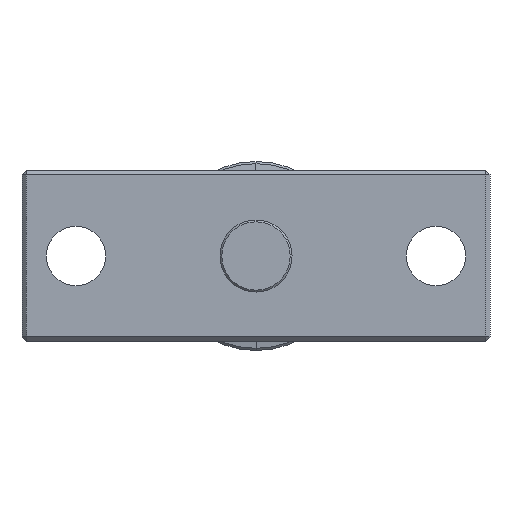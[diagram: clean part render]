
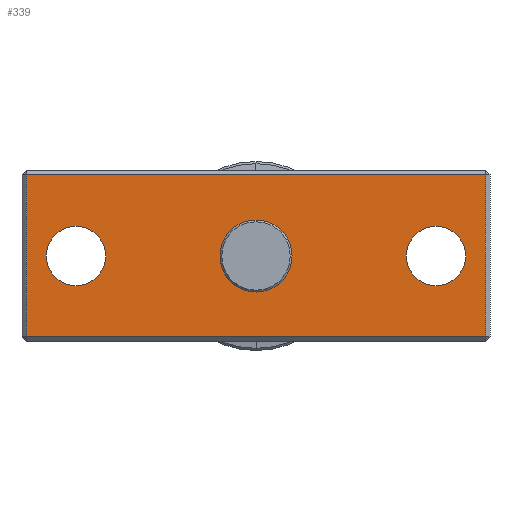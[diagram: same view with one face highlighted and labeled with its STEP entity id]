
A CAD part, left-side view. The second image highlights one B-rep face of the part: STEP entity #339.
In plain terms, the highlighted planar face has unit normal (-1, 0, 0).
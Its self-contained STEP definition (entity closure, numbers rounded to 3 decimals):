
#33 = EDGE_LOOP ( 'NONE', ( #1211, #225 ) ) ;
#53 = VERTEX_POINT ( 'NONE', #2431 ) ;
#110 = ORIENTED_EDGE ( 'NONE', *, *, #2434, .T. ) ;
#153 = VERTEX_POINT ( 'NONE', #536 ) ;
#178 = CARTESIAN_POINT ( 'NONE',  ( -3., -25.5, 9. ) ) ;
#179 = CARTESIAN_POINT ( 'NONE',  ( -3., 25.5, 9. ) ) ;
#206 = CARTESIAN_POINT ( 'NONE',  ( -3., 20., 0. ) ) ;
#221 = VERTEX_POINT ( 'NONE', #1822 ) ;
#225 = ORIENTED_EDGE ( 'NONE', *, *, #1415, .T. ) ;
#263 = EDGE_CURVE ( 'NONE', #1173, #965, #2175, .T. ) ;
#271 = DIRECTION ( 'NONE',  ( 0., 1., 0. ) ) ;
#274 = DIRECTION ( 'NONE',  ( 0., 0., -1. ) ) ;
#283 = EDGE_CURVE ( 'NONE', #53, #2280, #853, .T. ) ;
#307 = EDGE_CURVE ( 'NONE', #965, #2395, #1673, .T. ) ;
#311 = CIRCLE ( 'NONE', #1078, 3.3 ) ;
#339 = ADVANCED_FACE ( 'NONE', ( #1221, #1869, #621, #1424 ), #972, .F. ) ;
#367 = AXIS2_PLACEMENT_3D ( 'NONE', #1893, #816, #481 ) ;
#419 = CARTESIAN_POINT ( 'NONE',  ( -3., 20., 3.3 ) ) ;
#452 = VERTEX_POINT ( 'NONE', #1347 ) ;
#481 = DIRECTION ( 'NONE',  ( 0., 0., -1. ) ) ;
#513 = DIRECTION ( 'NONE',  ( 1., 0., 0. ) ) ;
#523 = CARTESIAN_POINT ( 'NONE',  ( -3., -25.5, 0. ) ) ;
#536 = CARTESIAN_POINT ( 'NONE',  ( -3., -25.5, -9. ) ) ;
#557 = CIRCLE ( 'NONE', #367, 4. ) ;
#571 = CARTESIAN_POINT ( 'NONE',  ( -3., -20., 3.3 ) ) ;
#621 = FACE_BOUND ( 'NONE', #33, .T. ) ;
#639 = DIRECTION ( 'NONE',  ( 1., 0., 0. ) ) ;
#658 = ORIENTED_EDGE ( 'NONE', *, *, #2369, .T. ) ;
#664 = CIRCLE ( 'NONE', #1884, 3.3 ) ;
#725 = EDGE_CURVE ( 'NONE', #221, #824, #664, .T. ) ;
#735 = ORIENTED_EDGE ( 'NONE', *, *, #2083, .T. ) ;
#748 = CARTESIAN_POINT ( 'NONE',  ( -3., 25.5, -9. ) ) ;
#752 = DIRECTION ( 'NONE',  ( 1., 0., 0. ) ) ;
#753 = DIRECTION ( 'NONE',  ( 1., 0., 0. ) ) ;
#807 = DIRECTION ( 'NONE',  ( 0., 0., -1. ) ) ;
#816 = DIRECTION ( 'NONE',  ( 1., 0., 0. ) ) ;
#824 = VERTEX_POINT ( 'NONE', #419 ) ;
#853 = CIRCLE ( 'NONE', #1925, 4. ) ;
#965 = VERTEX_POINT ( 'NONE', #179 ) ;
#972 = PLANE ( 'NONE',  #1593 ) ;
#998 = ORIENTED_EDGE ( 'NONE', *, *, #1140, .T. ) ;
#1061 = CARTESIAN_POINT ( 'NONE',  ( -3., 20., 0. ) ) ;
#1078 = AXIS2_PLACEMENT_3D ( 'NONE', #1728, #639, #2463 ) ;
#1081 = VECTOR ( 'NONE', #2297, 1000. ) ;
#1140 = EDGE_CURVE ( 'NONE', #2280, #53, #557, .T. ) ;
#1173 = VERTEX_POINT ( 'NONE', #178 ) ;
#1189 = CARTESIAN_POINT ( 'NONE',  ( -3., -20., 0. ) ) ;
#1211 = ORIENTED_EDGE ( 'NONE', *, *, #1327, .T. ) ;
#1218 = CARTESIAN_POINT ( 'NONE',  ( -3., 0., 0. ) ) ;
#1221 = FACE_OUTER_BOUND ( 'NONE', #2469, .T. ) ;
#1258 = DIRECTION ( 'NONE',  ( 0., 0., -1. ) ) ;
#1280 = VECTOR ( 'NONE', #2429, 1000. ) ;
#1299 = CARTESIAN_POINT ( 'NONE',  ( -3., 0., -9. ) ) ;
#1327 = EDGE_CURVE ( 'NONE', #452, #2264, #311, .T. ) ;
#1334 = LINE ( 'NONE', #1299, #1081 ) ;
#1347 = CARTESIAN_POINT ( 'NONE',  ( -3., -20., -3.3 ) ) ;
#1354 = DIRECTION ( 'NONE',  ( 1., 0., 0. ) ) ;
#1378 = CARTESIAN_POINT ( 'NONE',  ( -3., 0., 0. ) ) ;
#1386 = AXIS2_PLACEMENT_3D ( 'NONE', #1061, #752, #274 ) ;
#1411 = CIRCLE ( 'NONE', #1897, 3.3 ) ;
#1415 = EDGE_CURVE ( 'NONE', #2264, #452, #1411, .T. ) ;
#1424 = FACE_BOUND ( 'NONE', #2253, .T. ) ;
#1455 = ORIENTED_EDGE ( 'NONE', *, *, #263, .T. ) ;
#1520 = DIRECTION ( 'NONE',  ( 0., 0., -1. ) ) ;
#1543 = CARTESIAN_POINT ( 'NONE',  ( -3., 0., 9. ) ) ;
#1593 = AXIS2_PLACEMENT_3D ( 'NONE', #1378, #753, #2182 ) ;
#1616 = EDGE_LOOP ( 'NONE', ( #998, #1706 ) ) ;
#1630 = CARTESIAN_POINT ( 'NONE',  ( -3., 25.5, 0. ) ) ;
#1673 = LINE ( 'NONE', #1630, #2449 ) ;
#1706 = ORIENTED_EDGE ( 'NONE', *, *, #283, .T. ) ;
#1728 = CARTESIAN_POINT ( 'NONE',  ( -3., -20., 0. ) ) ;
#1751 = DIRECTION ( 'NONE',  ( 0., 0., -1. ) ) ;
#1770 = ORIENTED_EDGE ( 'NONE', *, *, #307, .T. ) ;
#1822 = CARTESIAN_POINT ( 'NONE',  ( -3., 20., -3.3 ) ) ;
#1839 = CIRCLE ( 'NONE', #1386, 3.3 ) ;
#1869 = FACE_BOUND ( 'NONE', #1616, .T. ) ;
#1884 = AXIS2_PLACEMENT_3D ( 'NONE', #206, #513, #1520 ) ;
#1893 = CARTESIAN_POINT ( 'NONE',  ( -3., 0., 0. ) ) ;
#1897 = AXIS2_PLACEMENT_3D ( 'NONE', #1189, #1354, #807 ) ;
#1925 = AXIS2_PLACEMENT_3D ( 'NONE', #1218, #2257, #1751 ) ;
#2022 = CARTESIAN_POINT ( 'NONE',  ( -3., 0., -4. ) ) ;
#2029 = VECTOR ( 'NONE', #271, 1000. ) ;
#2083 = EDGE_CURVE ( 'NONE', #153, #1173, #2123, .T. ) ;
#2123 = LINE ( 'NONE', #523, #1280 ) ;
#2126 = ORIENTED_EDGE ( 'NONE', *, *, #725, .T. ) ;
#2175 = LINE ( 'NONE', #1543, #2029 ) ;
#2182 = DIRECTION ( 'NONE',  ( 0., 0., -1. ) ) ;
#2253 = EDGE_LOOP ( 'NONE', ( #2126, #110 ) ) ;
#2257 = DIRECTION ( 'NONE',  ( 1., 0., 0. ) ) ;
#2264 = VERTEX_POINT ( 'NONE', #571 ) ;
#2280 = VERTEX_POINT ( 'NONE', #2022 ) ;
#2297 = DIRECTION ( 'NONE',  ( 0., -1., 0. ) ) ;
#2369 = EDGE_CURVE ( 'NONE', #2395, #153, #1334, .T. ) ;
#2395 = VERTEX_POINT ( 'NONE', #748 ) ;
#2429 = DIRECTION ( 'NONE',  ( 0., 0., 1. ) ) ;
#2431 = CARTESIAN_POINT ( 'NONE',  ( -3., 0., 4. ) ) ;
#2434 = EDGE_CURVE ( 'NONE', #824, #221, #1839, .T. ) ;
#2449 = VECTOR ( 'NONE', #1258, 1000. ) ;
#2463 = DIRECTION ( 'NONE',  ( 0., 0., -1. ) ) ;
#2469 = EDGE_LOOP ( 'NONE', ( #658, #735, #1455, #1770 ) ) ;
